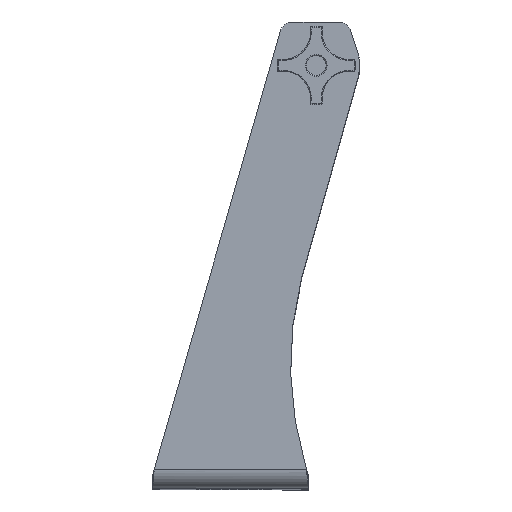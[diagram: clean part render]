
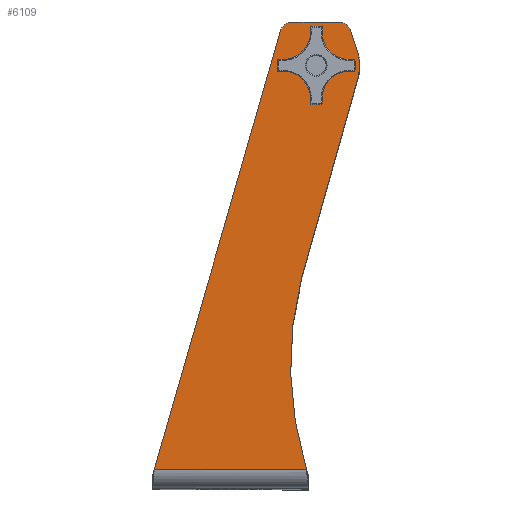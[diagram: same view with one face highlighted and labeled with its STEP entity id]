
A CAD part, top view. The second image highlights one B-rep face of the part: STEP entity #6109.
In plain terms, the highlighted planar face has unit normal (0, 0, 1) as drawn and (1, 0, 0) by its records, which use the part's own axes.
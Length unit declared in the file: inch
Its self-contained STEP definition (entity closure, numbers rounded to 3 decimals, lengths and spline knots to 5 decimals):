
#58 = AXIS2_PLACEMENT_3D ( 'NONE', #9563, #4428, #10384 ) ;
#171 = VERTEX_POINT ( 'NONE', #10404 ) ;
#216 = FACE_BOUND ( 'NONE', #9506, .T. ) ;
#289 = CARTESIAN_POINT ( 'NONE',  ( 11.25, 12.176, -2.46533 ) ) ;
#294 = VERTEX_POINT ( 'NONE', #3579 ) ;
#309 = ORIENTED_EDGE ( 'NONE', *, *, #9331, .F. ) ;
#353 = CIRCLE ( 'NONE', #7709, 0.37474 ) ;
#600 = CARTESIAN_POINT ( 'NONE',  ( 11.25, 13.14147, -1.43079 ) ) ;
#1078 = EDGE_CURVE ( 'NONE', #9217, #6586, #353, .T. ) ;
#1147 = DIRECTION ( 'NONE',  ( 0., 1., 0. ) ) ;
#1154 = CARTESIAN_POINT ( 'NONE',  ( 11.25, 12.176, -2.46533 ) ) ;
#1262 = VERTEX_POINT ( 'NONE', #6547 ) ;
#1383 = VERTEX_POINT ( 'NONE', #4249 ) ;
#1418 = EDGE_CURVE ( 'NONE', #171, #6239, #2675, .T. ) ;
#1422 = VECTOR ( 'NONE', #2780, 39.37008 ) ;
#1780 = EDGE_LOOP ( 'NONE', ( #3427, #5644, #9234, #10847, #5937, #2253, #7371, #5434, #4276 ) ) ;
#2015 = DIRECTION ( 'NONE',  ( 0., 1., 0. ) ) ;
#2056 = LINE ( 'NONE', #4073, #10851 ) ;
#2253 = ORIENTED_EDGE ( 'NONE', *, *, #3209, .T. ) ;
#2326 = EDGE_CURVE ( 'NONE', #5202, #5482, #4422, .T. ) ;
#2349 = CARTESIAN_POINT ( 'NONE',  ( 11.25, 0.563, -2.18872 ) ) ;
#2376 = AXIS2_PLACEMENT_3D ( 'NONE', #5123, #7716, #2561 ) ;
#2422 = EDGE_CURVE ( 'NONE', #5482, #1383, #7412, .T. ) ;
#2540 = AXIS2_PLACEMENT_3D ( 'NONE', #4351, #10314, #5226 ) ;
#2561 = DIRECTION ( 'NONE',  ( 0., 1., 0. ) ) ;
#2564 = DIRECTION ( 'NONE',  ( 1., 0., 0. ) ) ;
#2628 = CARTESIAN_POINT ( 'NONE',  ( 11.25, 13.05126, -3.10022 ) ) ;
#2675 = CIRCLE ( 'NONE', #8085, 0.1955 ) ;
#2686 = DIRECTION ( 'NONE',  ( 0., 1., 0. ) ) ;
#2780 = DIRECTION ( 'NONE',  ( 0., 0., -1. ) ) ;
#2815 = VECTOR ( 'NONE', #9841, 39.37008 ) ;
#2882 = CARTESIAN_POINT ( 'NONE',  ( 11.25, 12.53753, -3.6619 ) ) ;
#3003 = VERTEX_POINT ( 'NONE', #2349 ) ;
#3209 = EDGE_CURVE ( 'NONE', #7522, #9217, #4267, .T. ) ;
#3427 = ORIENTED_EDGE ( 'NONE', *, *, #2422, .T. ) ;
#3486 = ORIENTED_EDGE ( 'NONE', *, *, #1418, .F. ) ;
#3555 = EDGE_CURVE ( 'NONE', #3003, #294, #10285, .T. ) ;
#3579 = CARTESIAN_POINT ( 'NONE',  ( 11.25, 6.07712, -2.04636 ) ) ;
#3587 = CARTESIAN_POINT ( 'NONE',  ( 11.25, 13.05126, -1.79451 ) ) ;
#3891 = AXIS2_PLACEMENT_3D ( 'NONE', #1154, #7178, #2015 ) ;
#4073 = CARTESIAN_POINT ( 'NONE',  ( 11.25, 6.27799, -2.10292 ) ) ;
#4249 = CARTESIAN_POINT ( 'NONE',  ( 11.25, 0.563, 2.1958 ) ) ;
#4267 = LINE ( 'NONE', #5280, #5772 ) ;
#4276 = ORIENTED_EDGE ( 'NONE', *, *, #2326, .T. ) ;
#4329 = DIRECTION ( 'NONE',  ( 0., 0., 1. ) ) ;
#4351 = CARTESIAN_POINT ( 'NONE',  ( 11.25, 12.176, -2.46533 ) ) ;
#4422 = CIRCLE ( 'NONE', #8571, 0.37474 ) ;
#4428 = DIRECTION ( 'NONE',  ( -1., 0., 0. ) ) ;
#4465 = DIRECTION ( 'NONE',  ( 0., 1., 0. ) ) ;
#4559 = CIRCLE ( 'NONE', #2540, 0.1955 ) ;
#4739 = CARTESIAN_POINT ( 'NONE',  ( 11.25, 7.04347, 0.32736 ) ) ;
#4944 = DIRECTION ( 'NONE',  ( 0., 0.963, -0.271 ) ) ;
#5123 = CARTESIAN_POINT ( 'NONE',  ( 11.25, 3.56814, -11.72649 ) ) ;
#5202 = VERTEX_POINT ( 'NONE', #10955 ) ;
#5226 = DIRECTION ( 'NONE',  ( 0., 1., 0. ) ) ;
#5277 = LINE ( 'NONE', #10250, #7043 ) ;
#5280 = CARTESIAN_POINT ( 'NONE',  ( 11.25, 2.05303, -7.08248 ) ) ;
#5434 = ORIENTED_EDGE ( 'NONE', *, *, #10027, .T. ) ;
#5482 = VERTEX_POINT ( 'NONE', #600 ) ;
#5644 = ORIENTED_EDGE ( 'NONE', *, *, #6171, .T. ) ;
#5772 = VECTOR ( 'NONE', #10361, 39.37008 ) ;
#5809 = CARTESIAN_POINT ( 'NONE',  ( 11.25, 13.15965, -3.45894 ) ) ;
#5937 = ORIENTED_EDGE ( 'NONE', *, *, #6558, .T. ) ;
#6109 = ADVANCED_FACE ( 'NONE', ( #216, #6287 ), #10209, .T. ) ;
#6171 = EDGE_CURVE ( 'NONE', #1383, #3003, #10507, .T. ) ;
#6239 = VERTEX_POINT ( 'NONE', #7480 ) ;
#6287 = FACE_OUTER_BOUND ( 'NONE', #1780, .T. ) ;
#6314 = DIRECTION ( 'NONE',  ( 1., 0., 0. ) ) ;
#6547 = CARTESIAN_POINT ( 'NONE',  ( 11.25, 11.81447, -3.6619 ) ) ;
#6558 = EDGE_CURVE ( 'NONE', #1262, #7522, #7077, .T. ) ;
#6586 = VERTEX_POINT ( 'NONE', #8032 ) ;
#7043 = VECTOR ( 'NONE', #4329, 39.37008 ) ;
#7077 = CIRCLE ( 'NONE', #3891, 1.25 ) ;
#7178 = DIRECTION ( 'NONE',  ( 1., 0., 0. ) ) ;
#7371 = ORIENTED_EDGE ( 'NONE', *, *, #1078, .T. ) ;
#7412 = LINE ( 'NONE', #4739, #2815 ) ;
#7480 = CARTESIAN_POINT ( 'NONE',  ( 11.25, 11.9805, -2.46533 ) ) ;
#7522 = VERTEX_POINT ( 'NONE', #2882 ) ;
#7709 = AXIS2_PLACEMENT_3D ( 'NONE', #2628, #2564, #2686 ) ;
#7716 = DIRECTION ( 'NONE',  ( 1., 0., 0. ) ) ;
#8032 = CARTESIAN_POINT ( 'NONE',  ( 11.25, 13.426, -3.10022 ) ) ;
#8085 = AXIS2_PLACEMENT_3D ( 'NONE', #289, #6314, #1147 ) ;
#8571 = AXIS2_PLACEMENT_3D ( 'NONE', #3587, #9594, #4465 ) ;
#8801 = CARTESIAN_POINT ( 'NONE',  ( 11.25, 0.563, -11.72649 ) ) ;
#9217 = VERTEX_POINT ( 'NONE', #5809 ) ;
#9234 = ORIENTED_EDGE ( 'NONE', *, *, #3555, .T. ) ;
#9331 = EDGE_CURVE ( 'NONE', #6239, #171, #4559, .T. ) ;
#9506 = EDGE_LOOP ( 'NONE', ( #3486, #309 ) ) ;
#9563 = CARTESIAN_POINT ( 'NONE',  ( 11.25, 3.56814, -11.72649 ) ) ;
#9594 = DIRECTION ( 'NONE',  ( 1., 0., 0. ) ) ;
#9812 = EDGE_CURVE ( 'NONE', #294, #1262, #2056, .T. ) ;
#9841 = DIRECTION ( 'NONE',  ( 0., -0.961, 0.277 ) ) ;
#10027 = EDGE_CURVE ( 'NONE', #6586, #5202, #5277, .T. ) ;
#10209 = PLANE ( 'NONE',  #2376 ) ;
#10250 = CARTESIAN_POINT ( 'NONE',  ( 11.25, 13.426, -11.72649 ) ) ;
#10285 = CIRCLE ( 'NONE', #58, 10. ) ;
#10314 = DIRECTION ( 'NONE',  ( 1., 0., 0. ) ) ;
#10361 = DIRECTION ( 'NONE',  ( 0., 0.951, 0.31 ) ) ;
#10384 = DIRECTION ( 'NONE',  ( 0., 1., 0. ) ) ;
#10404 = CARTESIAN_POINT ( 'NONE',  ( 11.25, 12.3715, -2.46533 ) ) ;
#10507 = LINE ( 'NONE', #8801, #1422 ) ;
#10847 = ORIENTED_EDGE ( 'NONE', *, *, #9812, .T. ) ;
#10851 = VECTOR ( 'NONE', #4944, 39.37008 ) ;
#10955 = CARTESIAN_POINT ( 'NONE',  ( 11.25, 13.426, -1.79451 ) ) ;
